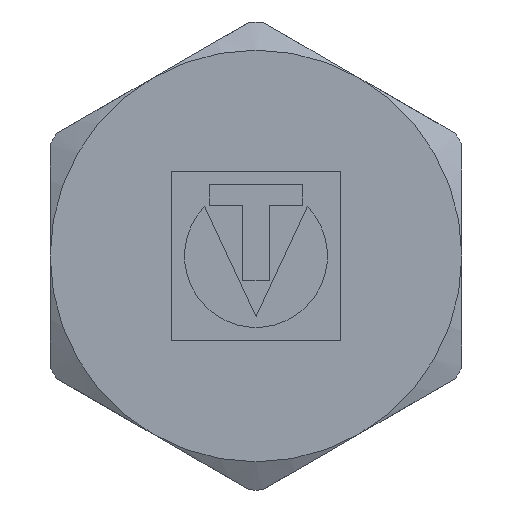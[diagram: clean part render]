
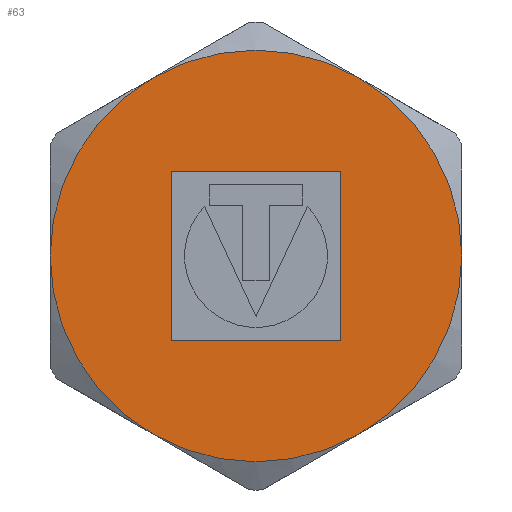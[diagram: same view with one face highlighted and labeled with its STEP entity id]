
A CAD part, front view. The second image highlights one B-rep face of the part: STEP entity #63.
In plain terms, the highlighted planar face has unit normal (0, -1, 0).
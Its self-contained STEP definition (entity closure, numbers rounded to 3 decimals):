
#63=ADVANCED_FACE('',(#223,#225),#227,.F.);
#223=FACE_BOUND('',#224,.T.);
#224=EDGE_LOOP('',(#505,#506,#507,#508,#509,#510));
#225=FACE_BOUND('',#226,.T.);
#226=EDGE_LOOP('',(#511,#512,#513,#514));
#227=PLANE('',#228);
#228=AXIS2_PLACEMENT_3D('',#229,#230,#231);
#229=CARTESIAN_POINT('',(0.,0.,0.));
#230=DIRECTION('',(0.,1.,0.));
#231=DIRECTION('',(-1.,0.,0.));
#505=ORIENTED_EDGE('',*,*,#626,.T.);
#506=ORIENTED_EDGE('',*,*,#630,.T.);
#507=ORIENTED_EDGE('',*,*,#634,.T.);
#508=ORIENTED_EDGE('',*,*,#614,.T.);
#509=ORIENTED_EDGE('',*,*,#618,.T.);
#510=ORIENTED_EDGE('',*,*,#622,.T.);
#511=ORIENTED_EDGE('',*,*,#661,.F.);
#512=ORIENTED_EDGE('',*,*,#662,.F.);
#513=ORIENTED_EDGE('',*,*,#663,.F.);
#514=ORIENTED_EDGE('',*,*,#664,.F.);
#614=EDGE_CURVE('',#716,#714,#717,.F.);
#618=EDGE_CURVE('',#714,#722,#724,.F.);
#622=EDGE_CURVE('',#722,#729,#731,.F.);
#626=EDGE_CURVE('',#729,#736,#738,.F.);
#630=EDGE_CURVE('',#736,#743,#745,.F.);
#634=EDGE_CURVE('',#743,#716,#751,.F.);
#661=EDGE_CURVE('',#791,#792,#793,.F.);
#662=EDGE_CURVE('',#794,#791,#795,.F.);
#663=EDGE_CURVE('',#796,#794,#797,.F.);
#664=EDGE_CURVE('',#792,#796,#798,.F.);
#714=VERTEX_POINT('',#882);
#716=VERTEX_POINT('',#915);
#717=CIRCLE('',#916,18.25);
#722=VERTEX_POINT('',#950);
#724=CIRCLE('',#979,18.25);
#729=VERTEX_POINT('',#1020);
#731=CIRCLE('',#1049,18.25);
#736=VERTEX_POINT('',#1083);
#738=CIRCLE('',#1122,18.25);
#743=VERTEX_POINT('',#1156);
#745=CIRCLE('',#1185,18.25);
#751=CIRCLE('',#1253,18.25);
#791=VERTEX_POINT('',#1376);
#792=VERTEX_POINT('',#1377);
#793=LINE('',#1378,#1379);
#794=VERTEX_POINT('',#1381);
#795=LINE('',#1382,#1383);
#796=VERTEX_POINT('',#1385);
#797=LINE('',#1386,#1387);
#798=LINE('',#1389,#1390);
#882=CARTESIAN_POINT('',(-18.25,0.,0.));
#915=CARTESIAN_POINT('',(-9.125,0.,15.805));
#916=AXIS2_PLACEMENT_3D('',#917,#918,#919);
#917=CARTESIAN_POINT('',(0.,0.,0.));
#918=DIRECTION('',(0.,1.,0.));
#919=DIRECTION('',(-1.,0.,0.));
#950=CARTESIAN_POINT('',(-9.125,0.,-15.805));
#979=AXIS2_PLACEMENT_3D('',#980,#981,#982);
#980=CARTESIAN_POINT('',(0.,0.,0.));
#981=DIRECTION('',(0.,1.,0.));
#982=DIRECTION('',(-0.5,0.,-0.866));
#1020=CARTESIAN_POINT('',(9.125,0.,-15.805));
#1049=AXIS2_PLACEMENT_3D('',#1050,#1051,#1052);
#1050=CARTESIAN_POINT('',(0.,0.,0.));
#1051=DIRECTION('',(0.,1.,0.));
#1052=DIRECTION('',(0.5,0.,-0.866));
#1083=CARTESIAN_POINT('',(18.25,0.,0.));
#1122=AXIS2_PLACEMENT_3D('',#1123,#1124,#1125);
#1123=CARTESIAN_POINT('',(0.,0.,0.));
#1124=DIRECTION('',(0.,1.,0.));
#1125=DIRECTION('',(1.,0.,0.));
#1156=CARTESIAN_POINT('',(9.125,0.,15.805));
#1185=AXIS2_PLACEMENT_3D('',#1186,#1187,#1188);
#1186=CARTESIAN_POINT('',(0.,0.,0.));
#1187=DIRECTION('',(0.,1.,0.));
#1188=DIRECTION('',(0.5,0.,0.866));
#1253=AXIS2_PLACEMENT_3D('',#1254,#1255,#1256);
#1254=CARTESIAN_POINT('',(0.,0.,0.));
#1255=DIRECTION('',(0.,1.,0.));
#1256=DIRECTION('',(-0.5,0.,0.866));
#1376=CARTESIAN_POINT('',(7.499,0.,-7.499));
#1377=CARTESIAN_POINT('',(7.499,0.,7.499));
#1378=CARTESIAN_POINT('',(7.499,0.,7.499));
#1379=VECTOR('',#1380,1.);
#1380=DIRECTION('',(0.,0.,-1.));
#1381=CARTESIAN_POINT('',(-7.499,0.,-7.499));
#1382=CARTESIAN_POINT('',(7.499,0.,-7.499));
#1383=VECTOR('',#1384,1.);
#1384=DIRECTION('',(-1.,0.,0.));
#1385=CARTESIAN_POINT('',(-7.499,0.,7.499));
#1386=CARTESIAN_POINT('',(-7.499,0.,-7.499));
#1387=VECTOR('',#1388,1.);
#1388=DIRECTION('',(0.,0.,1.));
#1389=CARTESIAN_POINT('',(-7.499,0.,7.499));
#1390=VECTOR('',#1391,1.);
#1391=DIRECTION('',(1.,0.,0.));
